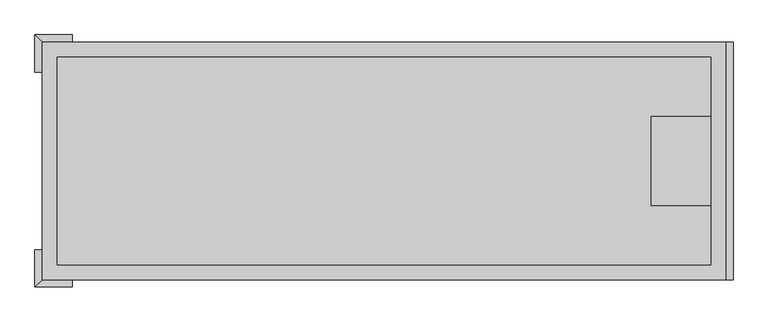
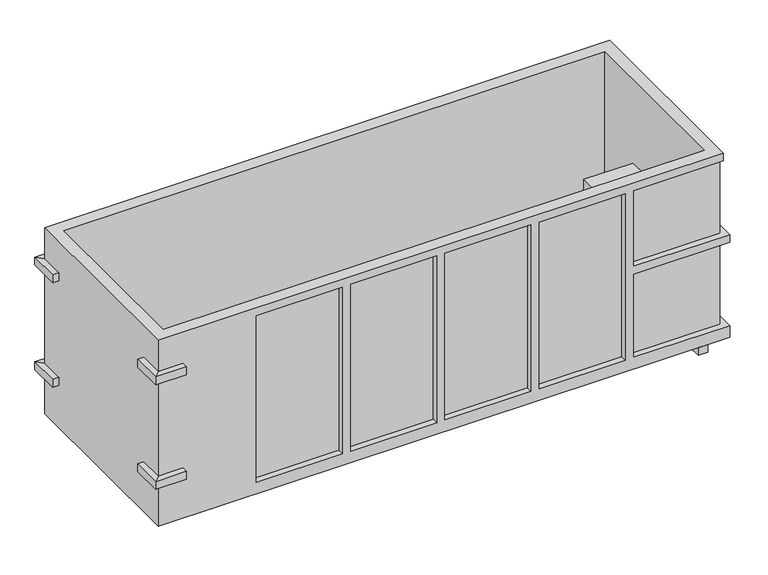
"""IFC4 building model written with IfcOpenShell, lengths in millimetres: geographic element geometry, Conteneur de déchets : Conteneur de déchets."""

from ifc_helpers import new_model, si_unit, point, frame, frame_2d, origin, origin_with_axes, place, context, project, spatial, polyline, circle_curve, trimmed, segment, composite_curve, outline, extrude, faceted_brep, source, transform, mapped, element, save


def geographic_element_3fd393c6(model_context):
    return source(origin(), model_context, "Body", "SolidModel", [
        faceted_brep([(7086.6, 0.0, 101.6), (0.0, 0.0, 101.6), (0.0, 2438.4, 101.6), (7086.6, 2438.4, 101.6), (7086.6, 1524.0, 101.6), (6400.8, 1524.0, 101.6), (6400.8, 914.4, 101.6), (7086.6, 914.4, 101.6), (7086.6, 0.0, 254.0), (5892.8, 0.0, 254.0), (5892.8, 0.0, 1346.2), (7086.6, 0.0, 1346.2), (7086.6, 0.0, 1447.8), (5892.8, 0.0, 1447.8), (5892.8, 0.0, 2438.4), (7010.4, 0.0, 2438.4), (7010.4, 0.0, 2540.0), (0.0, 0.0, 2540.0), (5791.2, 0.0, 254.0), (4724.4, 0.0, 254.0), (4724.4, 0.0, 2438.4), (5791.2, 0.0, 2438.4), (4622.8, 0.0, 2438.4), (4622.8, 0.0, 254.0), (3556.0, 0.0, 254.0), (3556.0, 0.0, 2438.4), (3454.4, 0.0, 254.0), (2387.6, 0.0, 254.0), (2387.6, 0.0, 2438.4), (3454.4, 0.0, 2438.4), (2286.0, 0.0, 2438.4), (2286.0, 0.0, 254.0), (1219.2, 0.0, 254.0), (1219.2, 0.0, 2438.4), (0.0, 2438.4, 2540.0), (7010.4, 2438.4, 2540.0), (7010.4, 2438.4, 2438.4), (5892.8, 2438.4, 2438.4), (5892.8, 2438.4, 1447.8), (7086.6, 2438.4, 1447.8), (7086.6, 2438.4, 1346.2), (5892.8, 2438.4, 1346.2), (5892.8, 2438.4, 254.0), (7086.6, 2438.4, 254.0), (1219.2, 2438.4, 254.0), (2286.0, 2438.4, 254.0), (2286.0, 2438.4, 2438.4), (1219.2, 2438.4, 2438.4), (2387.6, 2438.4, 2438.4), (2387.6, 2438.4, 254.0), (3454.4, 2438.4, 254.0), (3454.4, 2438.4, 2438.4), (3556.0, 2438.4, 254.0), (4622.8, 2438.4, 254.0), (4622.8, 2438.4, 2438.4), (3556.0, 2438.4, 2438.4), (4724.4, 2438.4, 2438.4), (4724.4, 2438.4, 254.0), (5791.2, 2438.4, 254.0), (5791.2, 2438.4, 2438.4), (7086.6, 914.4, 1346.2), (7086.6, 1524.0, 1346.2), (7086.6, 1625.6, 254.0), (7086.6, 1625.6, 1346.2), (7086.6, 812.8, 1346.2), (7086.6, 812.8, 254.0), (6858.0, 1524.0, 1346.2), (6858.0, 1524.0, 254.0), (6400.8, 1524.0, 254.0), (6400.8, 914.4, 254.0), (6858.0, 914.4, 1346.2), (6858.0, 914.4, 254.0), (5892.8, 2362.2, 254.0), (7010.4, 2362.2, 254.0), (7010.4, 1625.6, 254.0), (7010.4, 1625.6, 1346.2), (7010.4, 812.8, 1346.2), (7010.4, 812.8, 254.0), (7010.4, 76.2, 254.0), (5892.8, 76.2, 254.0), (5892.8, 76.2, 1346.2), (2286.0, 76.2, 2438.4), (2286.0, 76.2, 254.0), (1219.2, 76.2, 254.0), (1219.2, 76.2, 2438.4), (3454.4, 76.2, 254.0), (2387.6, 76.2, 254.0), (2387.6, 76.2, 2438.4), (3454.4, 76.2, 2438.4), (4622.8, 76.2, 2438.4), (4622.8, 76.2, 254.0), (3556.0, 76.2, 254.0), (3556.0, 76.2, 2438.4), (5791.2, 76.2, 254.0), (4724.4, 76.2, 254.0), (4724.4, 76.2, 2438.4), (5791.2, 76.2, 2438.4), (5892.8, 2362.2, 1346.2), (1219.2, 2362.2, 254.0), (2286.0, 2362.2, 254.0), (2286.0, 2362.2, 2438.4), (1219.2, 2362.2, 2438.4), (2387.6, 2362.2, 2438.4), (2387.6, 2362.2, 254.0), (3454.4, 2362.2, 254.0), (3454.4, 2362.2, 2438.4), (3556.0, 2362.2, 254.0), (4622.8, 2362.2, 254.0), (4622.8, 2362.2, 2438.4), (3556.0, 2362.2, 2438.4), (4724.4, 2362.2, 2438.4), (4724.4, 2362.2, 254.0), (5791.2, 2362.2, 254.0), (5791.2, 2362.2, 2438.4), (6858.0, 2286.0, 254.0), (152.4, 2286.0, 254.0), (152.4, 152.4, 254.0), (6858.0, 152.4, 254.0), (6858.0, 2286.0, 2540.0), (152.4, 2286.0, 2540.0), (152.4, 152.4, 2540.0), (6858.0, 152.4, 2540.0), (7010.4, 2362.2, 1346.2), (5892.8, 2362.2, 1447.8), (5892.8, 2362.2, 2438.4), (7010.4, 2362.2, 2438.4), (7010.4, 2362.2, 1447.8), (7010.4, 76.2, 1346.2), (7010.4, 76.2, 2438.4), (7010.4, 76.2, 1447.8), (5892.8, 76.2, 1447.8), (5892.8, 76.2, 2438.4)], [[[0, 1, 2, 3, 4, 5, 6, 7]], [[1, 0, 8, 9, 10, 11, 12, 13, 14, 15, 16, 17], [18, 19, 20, 21], [22, 23, 24, 25], [26, 27, 28, 29], [30, 31, 32, 33]], [[2, 1, 17, 34]], [[3, 2, 34, 35, 36, 37, 38, 39, 40, 41, 42, 43], [44, 45, 46, 47], [48, 49, 50, 51], [52, 53, 54, 55], [56, 57, 58, 59]], [[0, 7, 60, 61, 4, 3, 43, 62, 63, 40, 39, 12, 11, 64, 65, 8]], [[61, 66, 67, 68, 5, 4]], [[5, 68, 69, 6]], [[70, 60, 7, 6, 69, 71]], [[72, 73, 74, 62, 43, 42]], [[74, 75, 63, 62]], [[76, 77, 65, 64]], [[65, 77, 78, 79, 9, 8]], [[79, 80, 10, 9]], [[81, 82, 31, 30]], [[82, 83, 32, 31]], [[83, 84, 33, 32]], [[85, 86, 27, 26]], [[86, 87, 28, 27]], [[88, 85, 26, 29]], [[89, 90, 23, 22]], [[90, 91, 24, 23]], [[91, 92, 25, 24]], [[93, 94, 19, 18]], [[94, 95, 20, 19]], [[96, 93, 18, 21]], [[97, 72, 42, 41]], [[98, 99, 45, 44]], [[99, 100, 46, 45]], [[101, 98, 44, 47]], [[102, 103, 49, 48]], [[103, 104, 50, 49]], [[104, 105, 51, 50]], [[106, 107, 53, 52]], [[107, 108, 54, 53]], [[109, 106, 52, 55]], [[110, 111, 57, 56]], [[111, 112, 58, 57]], [[112, 113, 59, 58]], [[114, 115, 116, 117, 71, 69, 68, 67]], [[115, 114, 118, 119]], [[116, 115, 119, 120]], [[117, 116, 120, 121]], [[117, 121, 118, 114, 67, 66, 70, 71]], [[73, 72, 97, 122]], [[99, 98, 101, 100]], [[103, 102, 105, 104]], [[107, 106, 109, 108]], [[111, 110, 113, 112]], [[123, 124, 125, 126]], [[75, 74, 73, 122]], [[77, 76, 127, 78]], [[35, 16, 15, 128, 129, 126, 125, 36]], [[82, 81, 84, 83]], [[86, 85, 88, 87]], [[90, 89, 92, 91]], [[94, 93, 96, 95]], [[130, 129, 128, 131]], [[127, 80, 79, 78]], [[34, 17, 16, 35], [118, 121, 120, 119]], [[130, 131, 14, 13]], [[131, 128, 15, 14]], [[84, 81, 30, 33]], [[87, 88, 29, 28]], [[92, 89, 22, 25]], [[95, 96, 21, 20]], [[125, 124, 37, 36]], [[124, 123, 38, 37]], [[100, 101, 47, 46]], [[105, 102, 48, 51]], [[108, 109, 55, 54]], [[113, 110, 56, 59]], [[66, 61, 60, 70]], [[122, 97, 41, 40, 63, 75]], [[123, 126, 129, 130, 13, 12, 39, 38]], [[76, 64, 11, 10, 80, 127]]]),
        faceted_brep([(6248.4, 1676.4, 254.0), (6858.0, 1676.4, 254.0), (6858.0, 1524.0, 254.0), (6400.8, 1524.0, 254.0), (6400.8, 914.4, 254.0), (6858.0, 914.4, 254.0), (6858.0, 762.0, 254.0), (6248.4, 762.0, 254.0), (6248.4, 1676.4, 1447.8), (6248.4, 762.0, 1447.8), (6858.0, 762.0, 1447.8), (6858.0, 1676.4, 1447.8), (6858.0, 914.4, 1346.2), (6858.0, 1524.0, 1346.2), (6400.8, 914.4, 1346.2), (6400.8, 1524.0, 1346.2)], [[[0, 1, 2, 3, 4, 5, 6, 7]], [[8, 9, 10, 11]], [[1, 0, 8, 11]], [[11, 10, 6, 5, 12, 13, 2, 1]], [[7, 6, 10, 9]], [[0, 7, 9, 8]], [[14, 15, 13, 12]], [[15, 14, 4, 3]], [[14, 12, 5, 4]], [[13, 15, 3, 2]]]),
        extrude(outline(polyline([(6696.5082831, 2438.4), (6817.9853671, 2438.4), (6817.9853671, 2286.0), (6696.5082831, 2286.0), (6696.5082831, 2438.4)])), origin_with_axes(), (0.0, 0.0, 1.0), 101.6),
        extrude(outline(polyline([(6817.9853671, 0.0), (6696.5082831, 0.0), (6696.5082831, 152.4), (6817.9853671, 152.4), (6817.9853671, 0.0)])), origin_with_axes(), (0.0, 0.0, 1.0), 101.6),
        extrude(outline(composite_curve([segment(trimmed(circle_curve(frame_2d((138.6039197, 725.6616494)), 139.7), [point((102.4072456, 590.7324428))], [point((102.4072456, 860.5908559))], False, "CARTESIAN"), True, "CONTINUOUS"), segment(polyline([(102.4072456, 860.5908559), (102.4072456, 590.7324428)]), True, "CONTINUOUS")], self_intersect=False)), frame((0.0, 2032.0, 0.0), z_axis=(0.0, 1.0, 0.0), x_axis=(0.0, 0.0, 1.0)), (0.0, 0.0, 1.0), 279.4),
        extrude(outline(composite_curve([segment(trimmed(circle_curve(frame_2d((138.6039197, 725.6616494)), 139.7), [point((102.4072456, 590.7324428))], [point((102.4072456, 860.5908559))], False, "CARTESIAN"), True, "CONTINUOUS"), segment(polyline([(102.4072456, 860.5908559), (102.4072456, 590.7324428)]), True, "CONTINUOUS")], self_intersect=False)), frame((0.0, 127.0, 0.0), z_axis=(0.0, 1.0, 0.0), x_axis=(0.0, 0.0, 1.0)), (0.0, 0.0, 1.0), 279.4),
        extrude(outline(polyline([(7010.4, 914.4), (7010.4, 1524.0), (7086.6, 1524.0), (7086.6, 914.4), (7010.4, 914.4)])), frame((0.0, 0.0, 889.0), z_axis=(0.0, 0.0, 1.0), x_axis=(1.0, 0.0, 0.0)), (0.0, 0.0, 1.0), 101.6),
        faceted_brep([(-76.2, 2133.6, 660.4), (0.0, 2133.6, 660.4), (0.0, 2133.6, 762.0), (-76.2, 2133.6, 762.0), (-76.2, 2514.6, 660.4), (0.0, 2438.4, 660.4), (0.0, 2438.4, 762.0), (-76.2, 2514.6, 762.0), (304.8, 2514.6, 660.4), (304.8, 2438.4, 660.4), (304.8, 2438.4, 762.0), (304.8, 2514.6, 762.0)], [[[0, 1, 2, 3]], [[1, 0, 4, 5]], [[2, 1, 5, 6]], [[3, 2, 6, 7]], [[0, 3, 7, 4]], [[5, 4, 8, 9]], [[6, 5, 9, 10]], [[7, 6, 10, 11]], [[4, 7, 11, 8]], [[8, 11, 10, 9]]]),
        faceted_brep([(-76.2, 2133.6, 2133.6), (-76.2, 2133.6, 2032.0), (0.0, 2133.6, 2032.0), (0.0, 2133.6, 2133.6), (304.8, 2514.6, 2133.6), (304.8, 2438.4, 2133.6), (304.8, 2438.4, 2032.0), (304.8, 2514.6, 2032.0), (-76.2, 2514.6, 2133.6), (-76.2, 2514.6, 2032.0), (0.0, 2438.4, 2032.0), (0.0, 2438.4, 2133.6)], [[[0, 1, 2, 3]], [[4, 5, 6, 7]], [[1, 0, 8, 9]], [[2, 1, 9, 10]], [[3, 2, 10, 11]], [[0, 3, 11, 8]], [[9, 8, 4, 7]], [[10, 9, 7, 6]], [[11, 10, 6, 5]], [[8, 11, 5, 4]]]),
        faceted_brep([(-76.2, 304.8, 660.4), (-76.2, 304.8, 762.0), (0.0, 304.8, 762.0), (0.0, 304.8, 660.4), (-76.2, -76.2, 660.4), (-76.2, -76.2, 762.0), (0.0, 0.0, 762.0), (0.0, 0.0, 660.4), (304.8, -76.2, 660.4), (304.8, -76.2, 762.0), (304.8, 0.0, 762.0), (304.8, 0.0, 660.4)], [[[0, 1, 2, 3]], [[1, 0, 4, 5]], [[2, 1, 5, 6]], [[3, 2, 6, 7]], [[0, 3, 7, 4]], [[5, 4, 8, 9]], [[6, 5, 9, 10]], [[7, 6, 10, 11]], [[4, 7, 11, 8]], [[8, 11, 10, 9]]]),
        faceted_brep([(-76.2, 304.8, 2133.6), (0.0, 304.8, 2133.6), (0.0, 304.8, 2032.0), (-76.2, 304.8, 2032.0), (304.8, -76.2, 2133.6), (304.8, -76.2, 2032.0), (304.8, 0.0, 2032.0), (304.8, 0.0, 2133.6), (-76.2, -76.2, 2133.6), (0.0, 0.0, 2133.6), (0.0, 0.0, 2032.0), (-76.2, -76.2, 2032.0)], [[[0, 1, 2, 3]], [[4, 5, 6, 7]], [[1, 0, 8, 9]], [[2, 1, 9, 10]], [[3, 2, 10, 11]], [[0, 3, 11, 8]], [[9, 8, 4, 7]], [[10, 9, 7, 6]], [[11, 10, 6, 5]], [[8, 11, 5, 4]]]),
    ])


if __name__ == "__main__":
    model = new_model("IFC4")
    model_context = context("Model", 3, world=origin())
    ifc_project = project(units=[si_unit("LENGTHUNIT", "METRE", prefix="MILLI")], contexts=[model_context])
    site = spatial("IfcSite", under=ifc_project)
    building = spatial("IfcBuilding", under=site)
    placement = place(None, origin())
    geographic_element_shape = geographic_element_3fd393c6(model_context)
    element("IfcGeographicElement", 1, ObjectType="Conteneur de déchets : Conteneur de déchets", at=placement, inside=building, context=model_context, shape_type="MappedRepresentation", body=[
        mapped(geographic_element_shape, transform((0.0, 0.0, 0.0), x_axis=(1.0, 0.0, 0.0), y_axis=(0.0, 1.0, 0.0), z_axis=(0.0, 0.0, 1.0))),
    ])
    save(model, "model.ifc")
